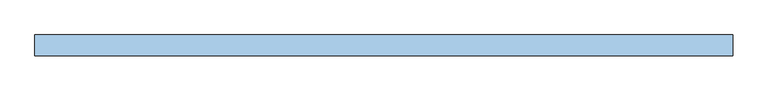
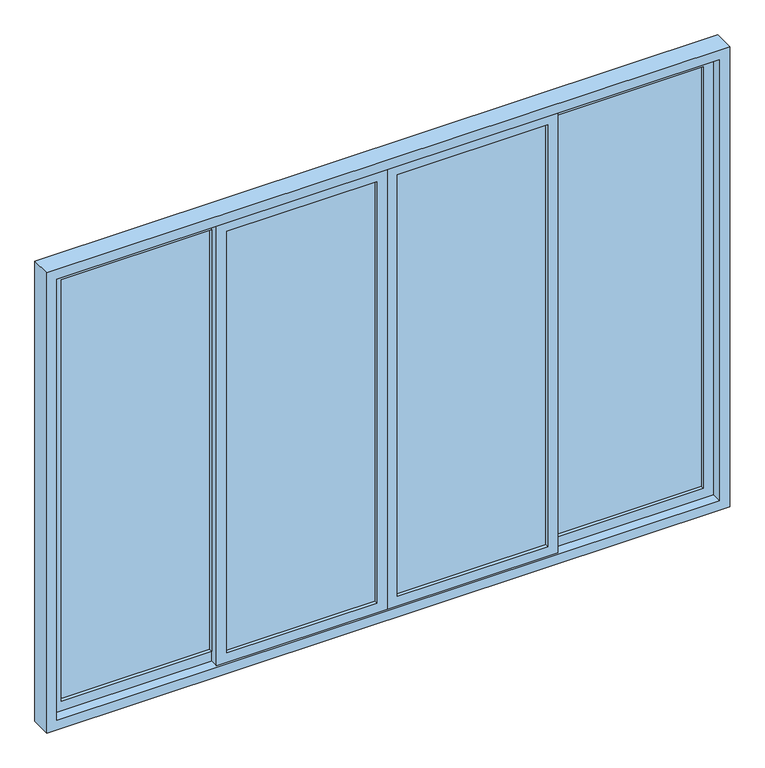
"""IFC4 building model written with IfcOpenShell, lengths in millimetres: window geometry, 四開落地窗- (1) : 1FL_西面_四開落地窗_400 x 285cm."""

from ifc_helpers import new_model, si_unit, frame, origin, place, context, project, spatial, polyline, outline, extrude, source, transform, mapped, element, save


def window_d6e7e360(model_context):
    return source(origin(), model_context, "Body", "SweptSolid", [
        extrude(outline(polyline([(2790.0, -1940.0), (60.0, -1940.0), (60.0, -940.0), (2790.0, -940.0), (2790.0, -1940.0)]), holes=[polyline([(2730.0, -1880.0), (2730.0, -1000.0), (120.0, -1000.0), (120.0, -1880.0), (2730.0, -1880.0)])]), frame((0.0, 180.0, 0.0), z_axis=(0.0, 1.0, 0.0), x_axis=(0.0, 0.0, 1.0)), (0.0, 0.0, 1.0), 50.0),
        extrude(outline(polyline([(-1000.0, 200.0), (-1880.0, 200.0), (-1880.0, 210.0), (-1000.0, 210.0), (-1000.0, 200.0)])), frame((0.0, 0.0, 120.0), z_axis=(0.0, 0.0, 1.0), x_axis=(1.0, 0.0, 0.0)), (0.0, 0.0, 1.0), 2610.0),
        extrude(outline(polyline([(2790.0, -1000.0), (60.0, -1000.0), (60.0, 0.0), (2790.0, 0.0), (2790.0, -1000.0)]), holes=[polyline([(2730.0, -940.0), (2730.0, -60.0), (120.0, -60.0), (120.0, -940.0), (2730.0, -940.0)])]), frame((0.0, 130.0, 0.0), z_axis=(0.0, 1.0, 0.0), x_axis=(0.0, 0.0, 1.0)), (0.0, 0.0, 1.0), 50.0),
        extrude(outline(polyline([(-60.0, 160.0), (-60.0, 150.0), (-940.0, 150.0), (-940.0, 160.0), (-60.0, 160.0)])), frame((0.0, 0.0, 120.0), z_axis=(0.0, 0.0, 1.0), x_axis=(1.0, 0.0, 0.0)), (0.0, 0.0, 1.0), 2610.0),
        extrude(outline(polyline([(2790.0, 1940.0), (2790.0, 940.0), (60.0, 940.0), (60.0, 1940.0), (2790.0, 1940.0)]), holes=[polyline([(2730.0, 1880.0), (120.0, 1880.0), (120.0, 1000.0), (2730.0, 1000.0), (2730.0, 1880.0)])]), frame((0.0, 180.0, 0.0), z_axis=(0.0, 1.0, 0.0), x_axis=(0.0, 0.0, 1.0)), (0.0, 0.0, 1.0), 50.0),
        extrude(outline(polyline([(1000.0, 200.0), (1000.0, 210.0), (1880.0, 210.0), (1880.0, 200.0), (1000.0, 200.0)])), frame((0.0, 0.0, 120.0), z_axis=(0.0, 0.0, 1.0), x_axis=(1.0, 0.0, 0.0)), (0.0, 0.0, 1.0), 2610.0),
        extrude(outline(polyline([(2790.0, 1000.0), (2790.0, 0.0), (60.0, 0.0), (60.0, 1000.0), (2790.0, 1000.0)]), holes=[polyline([(2730.0, 940.0), (120.0, 940.0), (120.0, 60.0), (2730.0, 60.0), (2730.0, 940.0)])]), frame((0.0, 130.0, 0.0), z_axis=(0.0, 1.0, 0.0), x_axis=(0.0, 0.0, 1.0)), (0.0, 0.0, 1.0), 50.0),
        extrude(outline(polyline([(60.0, 160.0), (940.0, 160.0), (940.0, 150.0), (60.0, 150.0), (60.0, 160.0)])), frame((0.0, 0.0, 120.0), z_axis=(0.0, 0.0, 1.0), x_axis=(1.0, 0.0, 0.0)), (0.0, 0.0, 1.0), 2610.0),
        extrude(outline(polyline([(2850.0, 2000.0), (2850.0, -2000.0), (0.0, -2000.0), (0.0, 2000.0), (2850.0, 2000.0)]), holes=[polyline([(2790.0, 1940.0), (60.0, 1940.0), (60.0, -1940.0), (2790.0, -1940.0), (2790.0, 1940.0)])]), frame((0.0, 120.0, 0.0), z_axis=(0.0, 1.0, 0.0), x_axis=(0.0, 0.0, 1.0)), (0.0, 0.0, 1.0), 120.0),
    ])


if __name__ == "__main__":
    model = new_model("IFC4")
    model_context = context("Model", 3, world=origin())
    ifc_project = project(units=[si_unit("LENGTHUNIT", "METRE", prefix="MILLI")], contexts=[model_context])
    site = spatial("IfcSite", under=ifc_project)
    building = spatial("IfcBuilding", under=site)
    placement = place(None, origin())
    window_shape = window_d6e7e360(model_context)
    element("IfcWindow", 1, ObjectType="四開落地窗- (1) : 1FL_西面_四開落地窗_400 x 285cm", at=placement, inside=building, context=model_context, shape_type="MappedRepresentation", body=[
        mapped(window_shape, transform((0.0, 0.0, 0.0), x_axis=(1.0, 0.0, 0.0), y_axis=(0.0, 1.0, 0.0), z_axis=(0.0, 0.0, 1.0))),
    ])
    save(model, "model.ifc")
